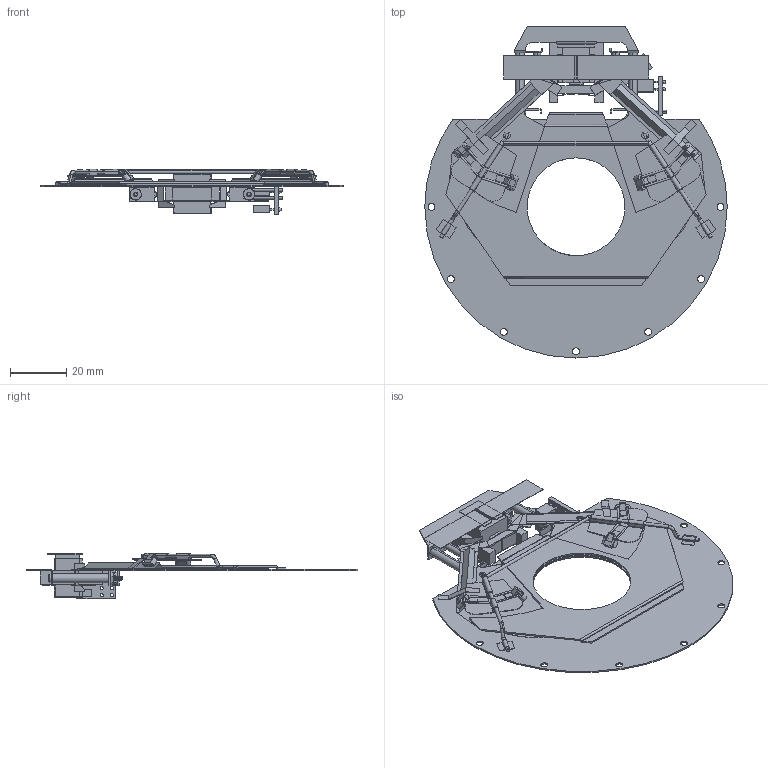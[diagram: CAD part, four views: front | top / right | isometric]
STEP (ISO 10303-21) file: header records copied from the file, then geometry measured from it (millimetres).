
FILE_DESCRIPTION (( 'STEP AP214' ), '1' );
FILE_NAME ('NO VSR35 3D Model Un-Housed.STEP', '2013-12-30T17:43:40', ( 'helen' ), ( 'Microsoft' ), 'SwSTEP 2.0', 'SolidWorks 2010', '' );
FILE_SCHEMA (( 'AUTOMOTIVE_DESIGN' ));
Length unit declared in the file: inch
Products named in the file (1): NO VSR35 3D Model Un-Housed
Bounding box: 107.95 x 118.52 x 16.28 mm (x, y, z)
Surface area: 36625 mm2 (no closed solid volume)
Topology: 0 solids, 22 shells, 2028 faces, 5323 edges, 3307 vertices
Faces by surface type: plane 682, cone 680, cylinder 588, torus 66, bspline 8, sphere 4
Entity records: 89911 total; most frequent: CARTESIAN_POINT 11835, DIRECTION 11590, ORIENTED_EDGE 10528, EDGE_CURVE 5315, AXIS2_PLACEMENT_3D 4426, VERTEX_POINT 3307, LINE 2738, VECTOR 2738
